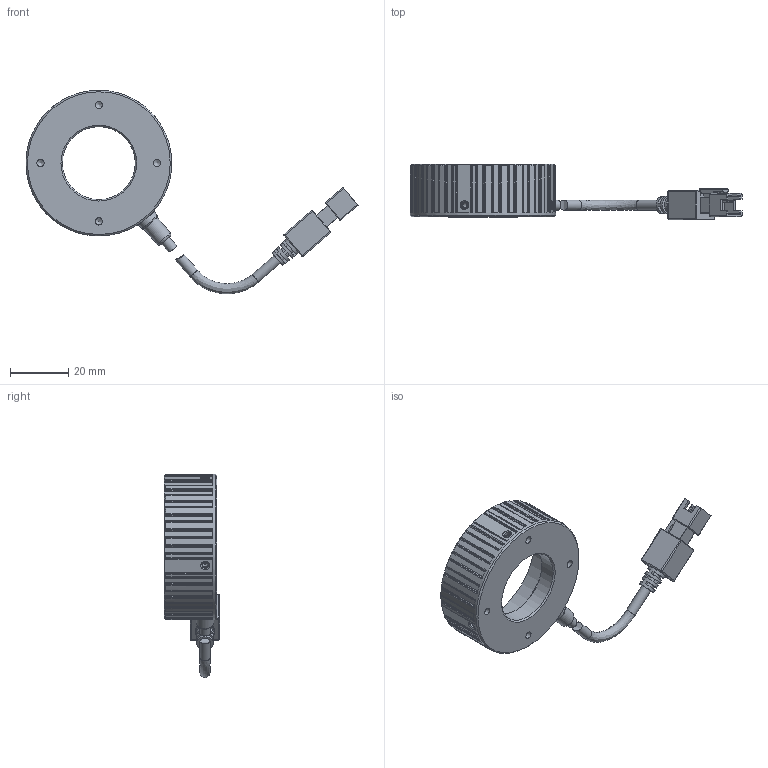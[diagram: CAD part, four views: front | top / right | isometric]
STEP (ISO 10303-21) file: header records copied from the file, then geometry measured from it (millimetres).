
FILE_DESCRIPTION (( 'STEP AP203' ), '1' );
FILE_NAME ('OPT-URI5030-UV-V1.0尨砩芞.STEP', '2025-02-15T06:36:04', ( '' ), ( '' ), 'SwSTEP 2.0', 'SolidWorks 2016', '' );
FILE_SCHEMA (( 'CONFIG_CONTROL_DESIGN' ));
Length unit declared in the file: millimetre
Products named in the file (1): OPT-URI5030-UV-V1.0尨砩芞
Bounding box: 113.95 x 18.9 x 69.81 mm (x, y, z)
Volume: 18850.8 mm3; surface area: 12475.5 mm2
Topology: 4 solids, 4 shells, 557 faces, 1487 edges, 955 vertices
Faces by surface type: plane 256, cylinder 209, cone 63, bspline 29
Full cylindrical faces by diameter (mm): 1.1 x4, 1.4 x4, 2 x4, 2.2 x4, 2.5 x4, 3.5 x3, 5 x1, 6 x1, 7 x1, 25 x1, 26.8 x1, 42 x1, 46 x1, 50 x1
Entity records: 18402 total; most frequent: CARTESIAN_POINT 5316, ORIENTED_EDGE 2774, DIRECTION 2549, EDGE_CURVE 1387, AXIS2_PLACEMENT_3D 938, VERTEX_POINT 919, LINE 673, VECTOR 673
